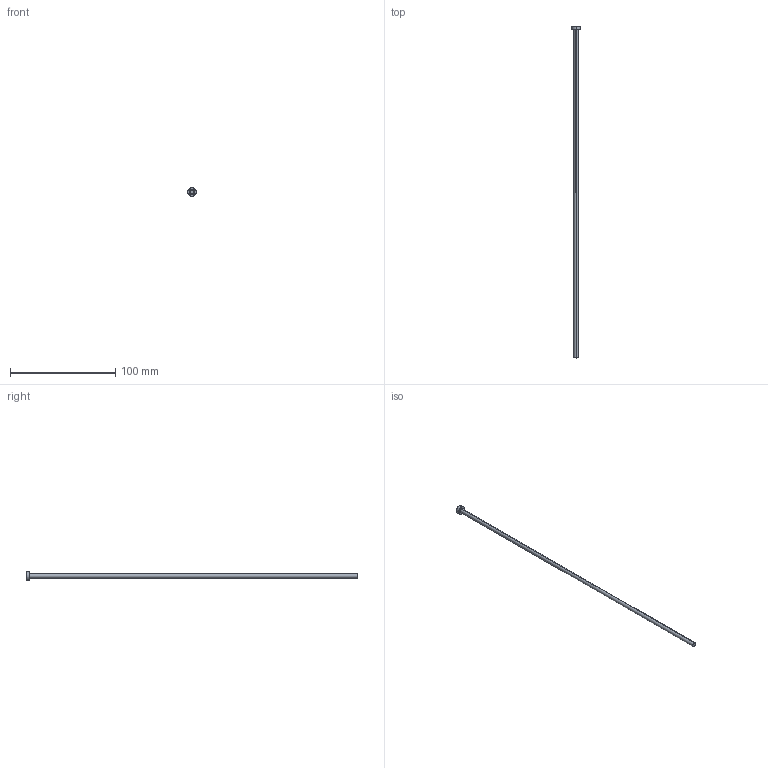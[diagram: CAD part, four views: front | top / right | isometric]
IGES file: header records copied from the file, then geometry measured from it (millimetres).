
Start section: SolidWorks IGES file using analytic representation for surfaces
Global section: file name: C:\Users\Ryan\Documents\PCS\Metric Core Pins\MC40-315.igs; native system: SolidWorks 2009; preprocessor: SolidWorks 2009; author: Ryan; date: 140227.081501; units: millimetre
Bounding box: 8 x 315 x 8 mm (x, y, z)
Surface area: 4095.1 mm2 (no closed solid volume)
Topology: 0 solids, 0 shells, 9 faces, 152 edges, 152 vertices
Faces by surface type: bspline 5, revolution 4
